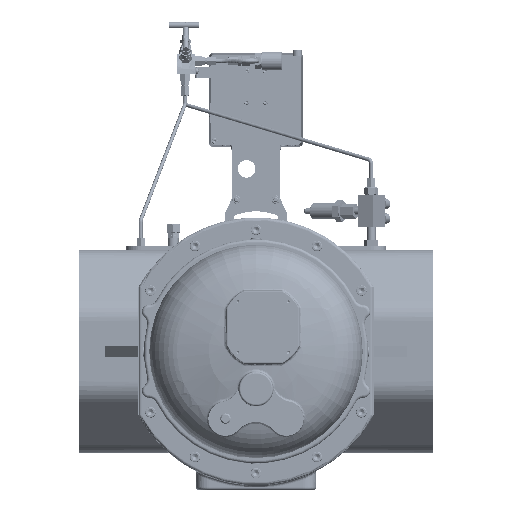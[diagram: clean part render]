
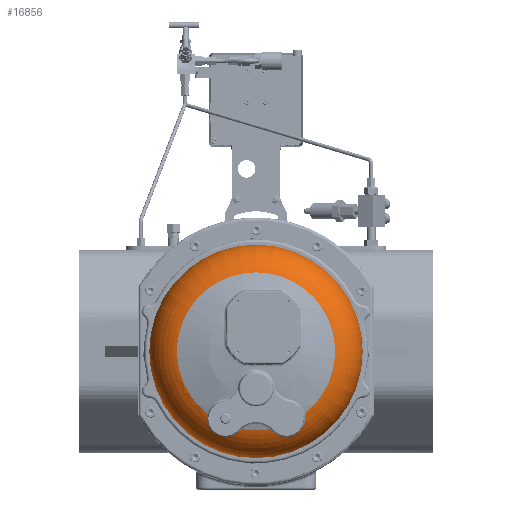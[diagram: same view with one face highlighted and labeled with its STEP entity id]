
A CAD part, left-side view. The second image highlights one B-rep face of the part: STEP entity #16856.
In plain terms, the highlighted toroidal (fillet/blend) face has major radius 113.213 mm and minor radius 67.949 mm.
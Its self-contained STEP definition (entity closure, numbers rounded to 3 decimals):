
#16856=ADVANCED_FACE('',(#127038,#127040),#127042,.T.);
#127038=FACE_OUTER_BOUND('',#127039,.T.);
#127039=EDGE_LOOP('',(#206420));
#127040=FACE_BOUND('',#127041,.T.);
#127041=EDGE_LOOP('',(#206421,#206422,#206423,#206424,#206425,#206426,#206427));
#127042=TOROIDAL_SURFACE('',#127043,113.213,67.949);
#127043=AXIS2_PLACEMENT_3D('',#127044,#127045,#127046);
#127044=CARTESIAN_POINT('',(-587.309,0.,0.));
#127045=DIRECTION('',(-1.,0.,0.));
#127046=DIRECTION('',(0.,0.,1.));
#206420=ORIENTED_EDGE('',*,*,#274197,.F.);
#206421=ORIENTED_EDGE('',*,*,#274358,.T.);
#206422=ORIENTED_EDGE('',*,*,#274359,.F.);
#206423=ORIENTED_EDGE('',*,*,#274360,.F.);
#206424=ORIENTED_EDGE('',*,*,#274361,.T.);
#206425=ORIENTED_EDGE('',*,*,#274362,.T.);
#206426=ORIENTED_EDGE('',*,*,#274363,.F.);
#206427=ORIENTED_EDGE('',*,*,#274364,.T.);
#274197=EDGE_CURVE('',#308652,#308652,#308653,.F.);
#274358=EDGE_CURVE('',#308922,#308923,#308924,.F.);
#274359=EDGE_CURVE('',#308925,#308923,#308926,.T.);
#274360=EDGE_CURVE('',#308927,#308925,#308928,.T.);
#274361=EDGE_CURVE('',#308927,#308929,#308930,.F.);
#274362=EDGE_CURVE('',#308929,#308931,#308932,.F.);
#274363=EDGE_CURVE('',#308933,#308931,#308934,.T.);
#274364=EDGE_CURVE('',#308933,#308922,#308935,.T.);
#308652=VERTEX_POINT('',#386733);
#308653=CIRCLE('',#386734,181.);
#308922=VERTEX_POINT('',#388251);
#308923=VERTEX_POINT('',#388252);
#308924=B_SPLINE_CURVE_WITH_KNOTS('',3,
(#388253,#388254,#388255,#388256,#388257,#388258,#388259,#388260,#388261,#388262,
#388263,#388264,#388265,#388266,#388267,#388268,#388269,#388270,#388271,#388272,
#388273,#388274,#388275,#388276,#388277,#388278,#388279),
.UNSPECIFIED.,.F.,.F.,
(4,1,1,1,1,1,1,1,1,1,1,1,1,1,1,1,1,1,1,1,1,1,1,1,4),
(0.,0.067,0.125,0.179,0.233,0.284,
0.328,0.368,0.407,0.443,0.478,
0.51,0.539,0.564,0.593,0.624,
0.66,0.698,0.743,0.79,0.842,
0.89,0.934,0.969,1.),
.UNSPECIFIED.);
#308925=VERTEX_POINT('',#388280);
#308926=CIRCLE('',#388281,134.);
#308927=VERTEX_POINT('',#388285);
#308928=CIRCLE('',#388286,134.);
#308929=VERTEX_POINT('',#388290);
#308930=B_SPLINE_CURVE_WITH_KNOTS('',3,
(#388291,#388292,#388293,#388294,#388295,#388296,#388297,#388298,#388299,#388300,
#388301,#388302,#388303,#388304,#388305,#388306,#388307,#388308,#388309,#388310,
#388311,#388312,#388313,#388314,#388315,#388316),
.UNSPECIFIED.,.F.,.F.,
(4,1,1,1,1,1,1,1,1,1,1,1,1,1,1,1,1,1,1,1,1,1,1,4),
(0.,0.074,0.138,0.188,0.237,0.28,
0.321,0.358,0.395,0.428,0.457,
0.481,0.506,0.533,0.565,0.601,
0.638,0.68,0.724,0.774,0.824,
0.875,0.934,1.),
.UNSPECIFIED.);
#308931=VERTEX_POINT('',#388317);
#308932=B_SPLINE_CURVE_WITH_KNOTS('',3,
(#388318,#388319,#388320,#388321,#388322,#388323),
.UNSPECIFIED.,.F.,.F.,
(4,1,1,4),
(0.,0.333,0.667,1.),
.UNSPECIFIED.);
#308933=VERTEX_POINT('',#388324);
#308934=CIRCLE('',#388325,134.);
#308935=B_SPLINE_CURVE_WITH_KNOTS('',3,
(#388329,#388330,#388331,#388332,#388333,#388334,#388335),
.UNSPECIFIED.,.F.,.F.,
(4,1,1,1,4),
(0.,0.333,0.667,0.889,1.),
.UNSPECIFIED.);
#386733=CARTESIAN_POINT('',(-592.,0.,181.));
#386734=AXIS2_PLACEMENT_3D('',#386735,#386736,#386737);
#386735=CARTESIAN_POINT('',(-592.,0.,0.));
#386736=DIRECTION('',(-1.,0.,0.));
#386737=DIRECTION('',(0.,0.,1.));
#388251=CARTESIAN_POINT('',(-650.921,26.7,-134.475));
#388252=CARTESIAN_POINT('',(-652.,82.998,-105.202));
#388253=CARTESIAN_POINT('',(-652.,82.998,-105.202));
#388254=CARTESIAN_POINT('',(-651.452,83.417,-107.041));
#388255=CARTESIAN_POINT('',(-650.342,83.861,-110.527));
#388256=CARTESIAN_POINT('',(-648.615,83.676,-115.479));
#388257=CARTESIAN_POINT('',(-646.969,82.841,-119.986));
#388258=CARTESIAN_POINT('',(-645.415,81.453,-124.158));
#388259=CARTESIAN_POINT('',(-644.022,79.604,-127.931));
#388260=CARTESIAN_POINT('',(-642.878,77.496,-131.157));
#388261=CARTESIAN_POINT('',(-641.974,75.242,-133.897));
#388262=CARTESIAN_POINT('',(-641.28,72.863,-136.25));
#388263=CARTESIAN_POINT('',(-640.778,70.344,-138.292));
#388264=CARTESIAN_POINT('',(-640.473,67.796,-139.986));
#388265=CARTESIAN_POINT('',(-640.344,65.294,-141.346));
#388266=CARTESIAN_POINT('',(-640.358,62.939,-142.39));
#388267=CARTESIAN_POINT('',(-640.484,60.614,-143.224));
#388268=CARTESIAN_POINT('',(-640.725,58.171,-143.905));
#388269=CARTESIAN_POINT('',(-641.126,55.399,-144.448));
#388270=CARTESIAN_POINT('',(-641.716,52.317,-144.771));
#388271=CARTESIAN_POINT('',(-642.537,48.875,-144.793));
#388272=CARTESIAN_POINT('',(-643.589,45.179,-144.418));
#388273=CARTESIAN_POINT('',(-644.882,41.238,-143.54));
#388274=CARTESIAN_POINT('',(-646.302,37.387,-142.151));
#388275=CARTESIAN_POINT('',(-647.726,33.854,-140.338));
#388276=CARTESIAN_POINT('',(-648.98,30.931,-138.374));
#388277=CARTESIAN_POINT('',(-650.038,28.592,-136.407));
#388278=CARTESIAN_POINT('',(-650.643,27.275,-135.114));
#388279=CARTESIAN_POINT('',(-650.921,26.7,-134.475));
#388280=CARTESIAN_POINT('',(-652.,0.,134.));
#388281=AXIS2_PLACEMENT_3D('',#388282,#388283,#388284);
#388282=CARTESIAN_POINT('',(-652.,0.,0.));
#388283=DIRECTION('',(-1.,0.,0.));
#388284=DIRECTION('',(0.,0.,1.));
#388285=CARTESIAN_POINT('',(-652.,-82.998,-105.202));
#388286=AXIS2_PLACEMENT_3D('',#388287,#388288,#388289);
#388287=CARTESIAN_POINT('',(-652.,0.,0.));
#388288=DIRECTION('',(-1.,0.,0.));
#388289=DIRECTION('',(0.,-0.619,-0.785));
#388290=CARTESIAN_POINT('',(-650.921,-26.7,-134.475));
#388291=CARTESIAN_POINT('',(-650.921,-26.7,-134.475));
#388292=CARTESIAN_POINT('',(-650.258,-28.073,-136.001));
#388293=CARTESIAN_POINT('',(-648.953,-30.963,-138.525));
#388294=CARTESIAN_POINT('',(-647.08,-35.399,-141.242));
#388295=CARTESIAN_POINT('',(-645.477,-39.579,-143.008));
#388296=CARTESIAN_POINT('',(-644.15,-43.41,-144.081));
#388297=CARTESIAN_POINT('',(-643.015,-47.13,-144.663));
#388298=CARTESIAN_POINT('',(-642.104,-50.606,-144.826));
#388299=CARTESIAN_POINT('',(-641.384,-53.946,-144.64));
#388300=CARTESIAN_POINT('',(-640.866,-57.058,-144.162));
#388301=CARTESIAN_POINT('',(-640.539,-59.895,-143.453));
#388302=CARTESIAN_POINT('',(-640.38,-62.349,-142.619));
#388303=CARTESIAN_POINT('',(-640.341,-64.505,-141.709));
#388304=CARTESIAN_POINT('',(-640.398,-66.558,-140.678));
#388305=CARTESIAN_POINT('',(-640.567,-68.702,-139.409));
#388306=CARTESIAN_POINT('',(-640.893,-71.004,-137.788));
#388307=CARTESIAN_POINT('',(-641.407,-73.355,-135.796));
#388308=CARTESIAN_POINT('',(-642.131,-75.686,-133.401));
#388309=CARTESIAN_POINT('',(-643.065,-77.885,-130.619));
#388310=CARTESIAN_POINT('',(-644.23,-79.914,-127.364));
#388311=CARTESIAN_POINT('',(-645.581,-81.619,-123.714));
#388312=CARTESIAN_POINT('',(-647.066,-82.897,-119.721));
#388313=CARTESIAN_POINT('',(-648.66,-83.687,-115.352));
#388314=CARTESIAN_POINT('',(-650.361,-83.856,-110.467));
#388315=CARTESIAN_POINT('',(-651.462,-83.41,-107.01));
#388316=CARTESIAN_POINT('',(-652.,-82.998,-105.202));
#388317=CARTESIAN_POINT('',(-652.,-23.979,-131.837));
#388318=CARTESIAN_POINT('',(-652.,-23.979,-131.837));
#388319=CARTESIAN_POINT('',(-651.895,-24.304,-132.112));
#388320=CARTESIAN_POINT('',(-651.671,-24.929,-132.685));
#388321=CARTESIAN_POINT('',(-651.312,-25.84,-133.563));
#388322=CARTESIAN_POINT('',(-651.054,-26.417,-134.169));
#388323=CARTESIAN_POINT('',(-650.921,-26.7,-134.475));
#388324=CARTESIAN_POINT('',(-652.,23.979,-131.837));
#388325=AXIS2_PLACEMENT_3D('',#388326,#388327,#388328);
#388326=CARTESIAN_POINT('',(-652.,0.,0.));
#388327=DIRECTION('',(-1.,0.,0.));
#388328=DIRECTION('',(0.,0.179,-0.984));
#388329=CARTESIAN_POINT('',(-652.,23.979,-131.837));
#388330=CARTESIAN_POINT('',(-651.893,24.298,-132.118));
#388331=CARTESIAN_POINT('',(-651.672,24.932,-132.682));
#388332=CARTESIAN_POINT('',(-651.352,25.738,-133.466));
#388333=CARTESIAN_POINT('',(-651.097,26.321,-134.068));
#388334=CARTESIAN_POINT('',(-650.965,26.606,-134.373));
#388335=CARTESIAN_POINT('',(-650.921,26.7,-134.475));
